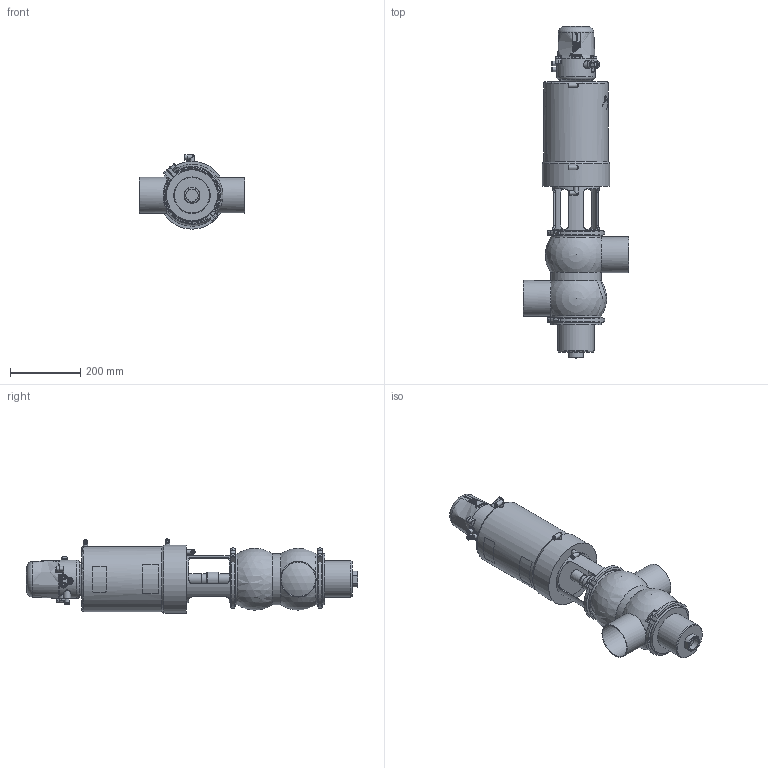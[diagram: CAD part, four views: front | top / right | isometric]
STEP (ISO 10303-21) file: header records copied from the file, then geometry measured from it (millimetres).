
FILE_DESCRIPTION (( 'STEP AP214' ), '1' );
FILE_NAME ('INNOVA P DC-180 W OD 4 & C-TOP S_10.250.16.0019.STEP', '2024-08-08T12:24:14', ( '' ), ( '' ), 'SwSTEP 2.0', 'SolidWorks 2023', '' );
FILE_SCHEMA (( 'AUTOMOTIVE_DESIGN' ));
Length unit declared in the file: millimetre
Products named in the file (7): 10.426.15.0001_C-TOP S - 3 EV; 10.250.15.0003_DN 4"; INNOVA P DC-180 W OD 4 & C-TOP S_10.250.16.0019; 10.250.15.0001_OD 4"; 10.251.15.0011_OD 4"; 10.240.15.0001_DN 100; 10.250.15.0002_Type P T3
Assembly tree (7 placements, depth 2):
  INNOVA P DC-180 W OD 4 & C-TOP S_10.250.16.0019
    10.250.15.0001_OD 4"
    10.250.15.0002_Type P T3
    10.426.15.0001_C-TOP S - 3 EV
    10.251.15.0011_OD 4"
    10.240.15.0001_DN 100  x2
    10.250.15.0003_DN 4"
Bounding box: 300 x 945.6 x 211.5 mm (x, y, z)
Volume: 16256243.4 mm3; surface area: 831516.7 mm2
Topology: 7 solids, 7 shells, 1202 faces, 2901 edges, 1929 vertices
Faces by surface type: plane 412, cylinder 383, cone 204, bspline 162, torus 33, sphere 8
Full cylindrical faces by diameter (mm): 0.371 x17, 0.512 x16, 0.658 x16, 0.795 x16, 0.94 x15, 1.098 x15, 1.241 x13, 1.382 x13, 1.523 x11, 1.669 x10, 2.201 x1, 4.2 x2, 5 x1, 5.5 x2, 6 x4, 6.15 x3, 8 x5, 10 x1, 10.5 x3, 11 x4, 12.5 x9, 13 x6, 13.5 x2, 17 x3, 20 x2, 22 x2, 30.5 x2, 32 x1, 35 x1, 41 x1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
Entity records: 59972 total; most frequent: CARTESIAN_POINT 28659, ORIENTED_EDGE 4608, DIRECTION 3749, EDGE_CURVE 2304, VERTEX_POINT 1642, EDGE_LOOP 1620, AXIS2_PLACEMENT_3D 1544, FACE_OUTER_BOUND 1369
